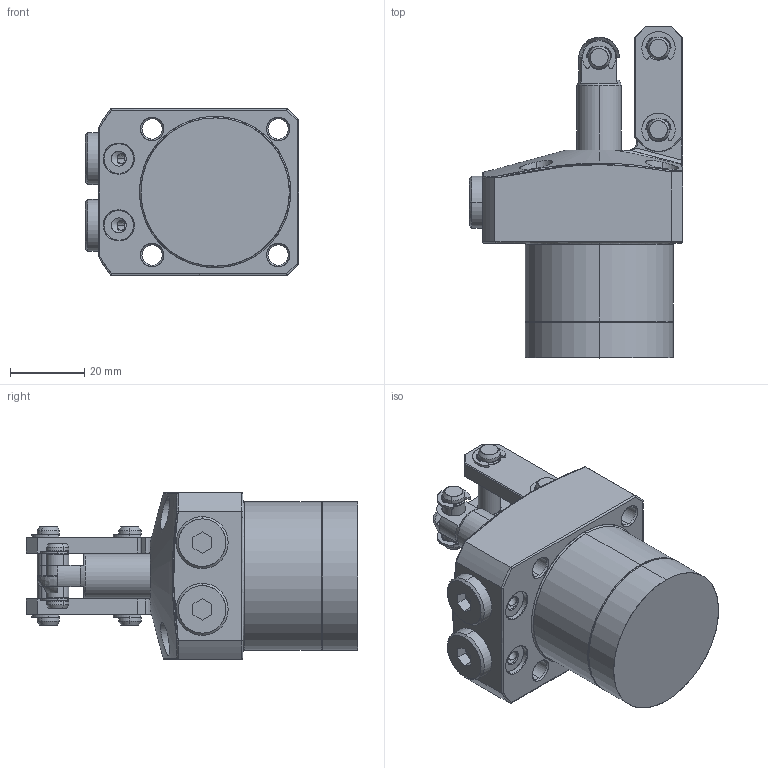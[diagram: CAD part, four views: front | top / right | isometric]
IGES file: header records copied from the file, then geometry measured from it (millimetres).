
Start section: SolidWorks IGES file using analytic representation for surfaces
Global section: file name: D:\abhilash\nijil\cylinder\LKA Series\con v lka\lka40\40cc\40CC PT\0402-0401.IGS; native system: SolidWorks 2010; preprocessor: SolidWorks 2010; author: nidheesh; date: 130730.102948; units: millimetre
Bounding box: 57.5 x 89.5 x 45 mm (x, y, z)
Surface area: 21500.8 mm2 (no closed solid volume)
Topology: 0 solids, 0 shells, 389 faces, 5069 edges, 5062 vertices
Faces by surface type: bspline 211, revolution 178
